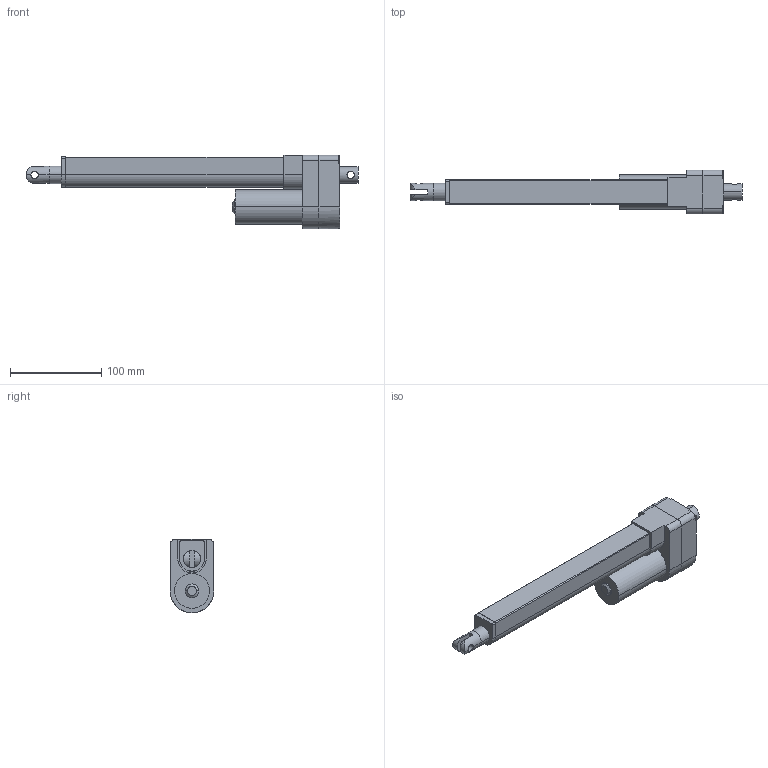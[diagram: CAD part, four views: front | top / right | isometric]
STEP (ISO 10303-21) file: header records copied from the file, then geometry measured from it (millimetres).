
FILE_DESCRIPTION((''),'2;1');
FILE_NAME('LAS3-S100_ASM','2007-07-11T',('amyliao'),(''),'PRO/ENGINEER BY PARAMETRIC TECHNOLOGY CORPORATION, 2003210','PRO/ENGINEER BY PARAMETRIC TECHNOLOGY CORPORATION, 2003210','');
FILE_SCHEMA(('CONFIG_CONTROL_DESIGN'));
Length unit declared in the file: millimetre
Products named in the file (8): 001; 002; LAS-MOTOR; OUT-TUB; 1; LAS-IN-TUB; LAS-IN-PLUG; LAS3-S100_ASM
Assembly tree (7 placements, depth 2):
  LAS3-S100_ASM
    001
    002
    LAS-MOTOR
    OUT-TUB
    1
    LAS-IN-TUB
    LAS-IN-PLUG
Bounding box: 363.35 x 48 x 80.5 mm (x, y, z)
Volume: 237847.9 mm3; surface area: 119095.3 mm2
Topology: 7 solids, 7 shells, 157 faces, 408 edges, 270 vertices
Faces by surface type: cylinder 79, plane 76, cone 2
Entity records: 5300 total; most frequent: CARTESIAN_POINT 1062, DIRECTION 894, ORIENTED_EDGE 816, EDGE_CURVE 408, AXIS2_PLACEMENT_3D 326, VERTEX_POINT 270, VECTOR 242, LINE 242
